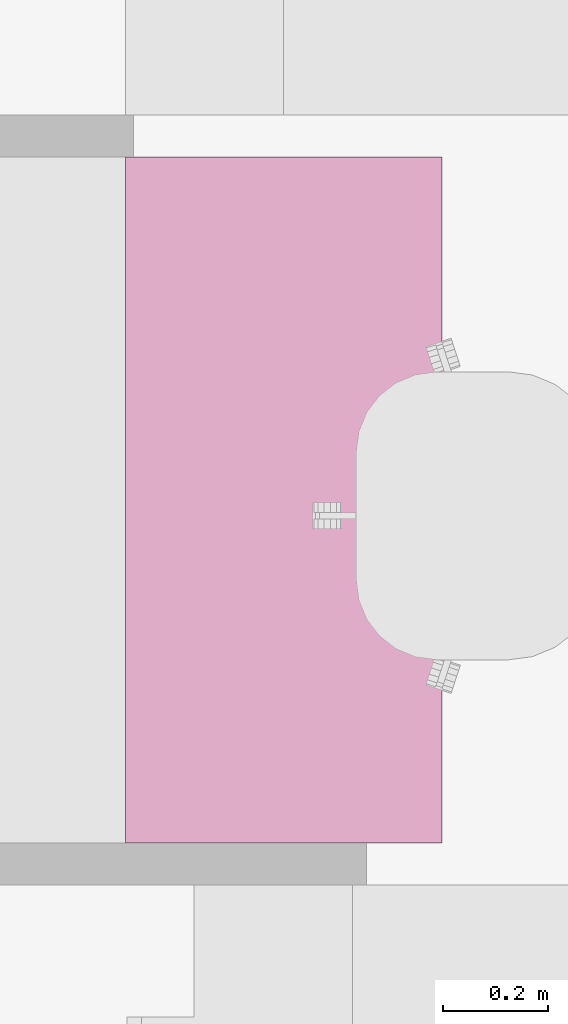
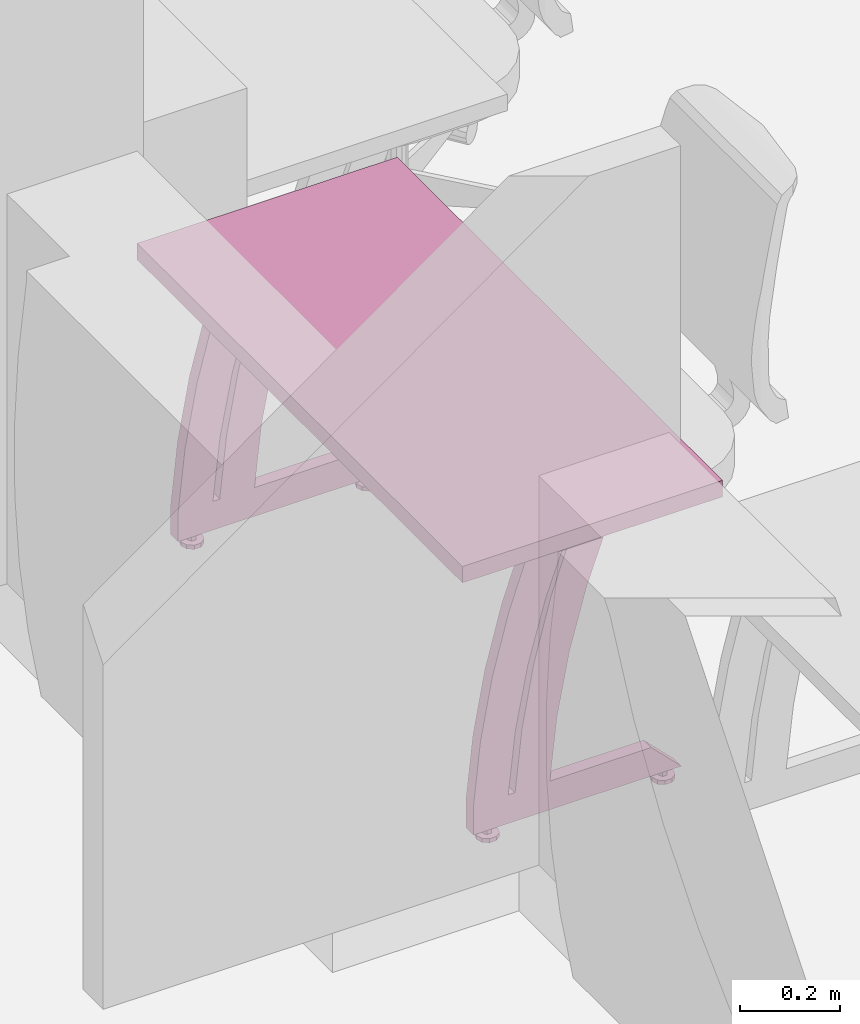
# One storey, part 94 of 128: 1 furnishing.
"""IFC2X3 building model written with IfcOpenShell, lengths in metres."""

from ifc_helpers import new_model, entity, si_unit, converted_unit, derived_unit, direction, frame, origin, place, context, subcontext, project, spatial, faceted_brep, source, transform, mapped, material, type_object, type_shapes, element, save


model = new_model("IFC2X3")

# Units and contexts
model_context = context("Model", 3, precision=1e-05, world=origin(), true_north=direction((6.123031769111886e-17, 1.0)))
body_context = subcontext(model_context, "Body", "Model", "MODEL_VIEW")
ifc_project = project(units=[si_unit("LENGTHUNIT", "METRE"), si_unit("AREAUNIT", "SQUARE_METRE"), converted_unit("PLANEANGLEUNIT", "DEGREE", entity("IfcPlaneAngleMeasure", 0.017453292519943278), si_unit("PLANEANGLEUNIT", "RADIAN"), dimensions=[0, 0, 0, 0, 0, 0, 0]), derived_unit("THERMALTRANSMITTANCEUNIT", [(si_unit("MASSUNIT", "GRAM", prefix="KILO"), 1), (si_unit("THERMODYNAMICTEMPERATUREUNIT", "KELVIN"), -1), (si_unit("TIMEUNIT", "SECOND"), -3)])], contexts=[model_context])

# Site, building, storey
site_placement = place(None, origin())
site = spatial("IfcSite", under=ifc_project, at=site_placement, Name="Default", CompositionType="ELEMENT")
building_placement = place(site_placement, origin())
building = spatial("IfcBuilding", under=site, at=building_placement, CompositionType="ELEMENT")
storey_placement = place(building_placement, origin())
storey = spatial("IfcBuildingStorey", under=building, at=storey_placement, Name="00_RDC CAF", CompositionType="ELEMENT", Elevation=2.4982504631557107e-13)

# Furnishing
ifc_material = material(Name="ARC - Mo - Blanc")
furniture_type = type_object("IfcFurnitureType", Name="Mo_Bureau:Mo_Bureau_1300x600mm", AssemblyPlace="NOTDEFINED", material=ifc_material)
shared_shape = source(origin(), body_context, "Body", "Brep", [
    faceted_brep([(0.05999999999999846, -0.4962325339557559, 0.0), (0.03622358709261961, -0.4885071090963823, 0.0), (0.040764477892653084, -0.48225710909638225, 0.0), (0.04530536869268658, -0.4760071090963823, 0.0), (0.05265268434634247, -0.4736198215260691, 0.0), (0.059999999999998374, -0.4712325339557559, 0.0), (0.06734731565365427, -0.4736198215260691, 0.0), (0.036223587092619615, -0.4962325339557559, 0.0), (0.03622358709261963, -0.5039579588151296, 0.0), (0.04076447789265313, -0.5102079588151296, 0.0), (0.04530536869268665, -0.5164579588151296, 0.0), (0.05265268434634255, -0.5188452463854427, 0.0), (0.05999999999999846, -0.5212325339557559, 0.0), (0.07469463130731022, -0.47600710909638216, 0.0), (0.07923552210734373, -0.48225710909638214, 0.0), (0.08377641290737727, -0.48850710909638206, 0.0), (0.08377641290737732, -0.4962325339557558, 0.0), (0.06734731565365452, -0.5188452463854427, 0.0), (0.07469463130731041, -0.5164579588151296, 0.0), (0.07923552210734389, -0.5102079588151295, 0.0), (0.08377641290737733, -0.5039579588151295, 0.0), (0.05999999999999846, -0.4962325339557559, 0.024999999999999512), (0.05999999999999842, -0.4862325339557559, 0.024999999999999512), (0.051339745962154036, -0.4912325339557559, 0.024999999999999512), (0.05133974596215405, -0.501232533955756, 0.024999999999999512), (0.05999999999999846, -0.506232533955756, 0.024999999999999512), (0.06866025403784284, -0.49123253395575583, 0.024999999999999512), (0.06866025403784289, -0.5012325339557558, 0.024999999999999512), (0.05133974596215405, -0.501232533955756, 0.01000000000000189), (0.05999999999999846, -0.506232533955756, 0.01000000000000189), (0.051339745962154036, -0.4912325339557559, 0.01000000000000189), (0.05999999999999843, -0.4862325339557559, 0.01000000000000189), (0.06866025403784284, -0.49123253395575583, 0.01000000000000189), (0.06866025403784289, -0.5012325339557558, 0.01000000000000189), (0.05999999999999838, -0.4712325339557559, 0.01000000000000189), (0.05554606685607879, -0.47267970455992, 0.01000000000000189), (0.05109213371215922, -0.474126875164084, 0.01000000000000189), (0.04530536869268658, -0.4760071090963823, 0.01000000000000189), (0.06734731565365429, -0.4736198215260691, 0.01000000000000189), (0.07469463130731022, -0.47600710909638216, 0.01000000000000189), (0.07923552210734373, -0.48225710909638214, 0.01000000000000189), (0.08377641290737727, -0.48850710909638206, 0.01000000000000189), (0.08377641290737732, -0.4962325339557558, 0.01000000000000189), (0.08377641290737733, -0.5039579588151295, 0.01000000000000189), (0.07923552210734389, -0.5102079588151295, 0.01000000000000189), (0.07469463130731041, -0.5164579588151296, 0.01000000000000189), (0.06890786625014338, -0.5183381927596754, 0.01000000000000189), (0.064453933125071, -0.5197853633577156, 0.01000000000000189), (0.05999999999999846, -0.5212325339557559, 0.01000000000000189), (0.05265268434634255, -0.5188452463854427, 0.01000000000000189), (0.04530536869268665, -0.5164579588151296, 0.01000000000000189), (0.03622358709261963, -0.5039579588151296, 0.01000000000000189), (0.04076447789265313, -0.5102079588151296, 0.01000000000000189), (0.040764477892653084, -0.48225710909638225, 0.01000000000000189), (0.03622358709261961, -0.4885071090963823, 0.01000000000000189), (0.036223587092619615, -0.4962325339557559, 0.01000000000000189)], [[[0, 1, 2]], [[0, 2, 3]], [[0, 3, 4]], [[0, 4, 5]], [[0, 5, 6]], [[0, 7, 1]], [[0, 8, 7]], [[0, 9, 8]], [[0, 10, 9]], [[0, 11, 10]], [[0, 12, 11]], [[0, 6, 13]], [[0, 13, 14]], [[0, 14, 15]], [[0, 15, 16]], [[0, 17, 12]], [[0, 18, 17]], [[0, 19, 18]], [[0, 20, 19]], [[0, 16, 20]], [[21, 22, 23]], [[23, 24, 21]], [[24, 25, 21]], [[21, 26, 22]], [[25, 27, 21]], [[26, 21, 27]], [[25, 24, 28, 29]], [[24, 23, 30, 28]], [[23, 22, 31, 30]], [[22, 26, 32, 31]], [[26, 27, 33, 32]], [[27, 25, 29, 33]], [[31, 34, 35]], [[31, 35, 36]], [[31, 36, 37]], [[31, 37, 30]], [[31, 38, 34]], [[31, 39, 38]], [[32, 39, 31]], [[32, 40, 39]], [[32, 41, 40]], [[32, 42, 41]], [[32, 43, 42]], [[32, 33, 43]], [[33, 44, 43]], [[33, 45, 44]], [[33, 29, 45]], [[29, 46, 45]], [[29, 47, 46]], [[29, 48, 47]], [[29, 49, 48]], [[29, 50, 49]], [[29, 28, 50]], [[30, 51, 28]], [[28, 51, 52]], [[28, 52, 50]], [[30, 37, 53]], [[30, 53, 54]], [[30, 54, 55]], [[30, 55, 51]], [[11, 12, 48, 49, 50, 10]], [[8, 9, 10, 50, 52, 51]], [[7, 8, 51, 55, 54, 1]], [[3, 37, 36, 35, 34, 5, 4]], [[54, 53, 37, 3, 2, 1]], [[6, 5, 34, 38, 39, 13]], [[15, 14, 13, 39, 40, 41]], [[16, 15, 41, 42, 43, 20]], [[18, 45, 46, 47, 48, 12, 17]], [[43, 44, 45, 18, 19, 20]]]),
    faceted_brep([(0.05999999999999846, -0.09132706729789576, 0.0), (0.03622358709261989, -0.0836016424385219, 0.0), (0.04076447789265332, -0.07735164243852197, 0.0), (0.04530536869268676, -0.07110164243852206, 0.0), (0.05265268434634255, -0.0687143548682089, 0.0), (0.059999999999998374, -0.06632706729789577, 0.0), (0.06734731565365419, -0.06871435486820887, 0.0), (0.0362235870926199, -0.0913270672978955, 0.0), (0.03622358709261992, -0.09905249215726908, 0.0), (0.04076447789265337, -0.105302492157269, 0.0), (0.045305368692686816, -0.11155249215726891, 0.0), (0.05265268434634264, -0.11393977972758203, 0.0), (0.05999999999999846, -0.11632706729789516, 0.0), (0.07469463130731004, -0.07110164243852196, 0.0), (0.0792355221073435, -0.07735164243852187, 0.0), (0.08377641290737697, -0.08360164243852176, 0.0), (0.08377641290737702, -0.09132706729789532, 0.0), (0.06734731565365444, -0.11393977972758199, 0.0), (0.07469463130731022, -0.11155249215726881, 0.0), (0.07923552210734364, -0.10530249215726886, 0.0), (0.08377641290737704, -0.09905249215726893, 0.0), (0.05999999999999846, -0.09132706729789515, 0.024999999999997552), (0.05999999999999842, -0.08132706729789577, 0.024999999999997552), (0.05133974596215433, -0.08632706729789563, 0.024999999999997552), (0.05133974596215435, -0.09632706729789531, 0.024999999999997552), (0.05999999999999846, -0.10132706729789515, 0.024999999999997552), (0.06866025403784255, -0.08632706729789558, 0.024999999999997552), (0.06866025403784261, -0.09632706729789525, 0.024999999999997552), (0.05133974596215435, -0.09632706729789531, 0.009999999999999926), (0.05999999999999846, -0.10132706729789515, 0.009999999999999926), (0.05133974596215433, -0.08632706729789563, 0.009999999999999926), (0.05999999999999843, -0.08132706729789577, 0.009999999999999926), (0.06866025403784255, -0.08632706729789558, 0.009999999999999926), (0.06866025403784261, -0.09632706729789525, 0.009999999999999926), (0.059999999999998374, -0.06632706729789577, 0.009999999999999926), (0.05554606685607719, -0.06777423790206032, 0.009999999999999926), (0.051092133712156, -0.06922140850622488, 0.009999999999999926), (0.04530536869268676, -0.07110164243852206, 0.009999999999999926), (0.0673473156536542, -0.06871435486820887, 0.009999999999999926), (0.07469463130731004, -0.07110164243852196, 0.009999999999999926), (0.0792355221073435, -0.07735164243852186, 0.009999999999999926), (0.08377641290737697, -0.08360164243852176, 0.009999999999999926), (0.08377641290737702, -0.09132706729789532, 0.009999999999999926), (0.08377641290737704, -0.09905249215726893, 0.009999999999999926), (0.07923552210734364, -0.10530249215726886, 0.009999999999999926), (0.07469463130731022, -0.11155249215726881, 0.009999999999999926), (0.0689078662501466, -0.11343272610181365, 0.009999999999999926), (0.06445393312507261, -0.11487989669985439, 0.009999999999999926), (0.05999999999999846, -0.11632706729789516, 0.009999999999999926), (0.05265268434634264, -0.11393977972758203, 0.009999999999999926), (0.045305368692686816, -0.11155249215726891, 0.009999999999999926), (0.03622358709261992, -0.09905249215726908, 0.009999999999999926), (0.04076447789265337, -0.105302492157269, 0.009999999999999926), (0.04076447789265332, -0.07735164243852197, 0.009999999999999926), (0.03622358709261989, -0.0836016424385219, 0.009999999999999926), (0.0362235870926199, -0.0913270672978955, 0.009999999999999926)], [[[0, 1, 2]], [[0, 2, 3]], [[0, 3, 4]], [[0, 4, 5]], [[0, 5, 6]], [[0, 7, 1]], [[0, 8, 7]], [[0, 9, 8]], [[0, 10, 9]], [[0, 11, 10]], [[0, 12, 11]], [[0, 6, 13]], [[0, 13, 14]], [[0, 14, 15]], [[0, 15, 16]], [[0, 17, 12]], [[0, 18, 17]], [[0, 19, 18]], [[0, 20, 19]], [[0, 16, 20]], [[21, 22, 23]], [[23, 24, 21]], [[24, 25, 21]], [[21, 26, 22]], [[25, 27, 21]], [[26, 21, 27]], [[25, 24, 28, 29]], [[24, 23, 30, 28]], [[23, 22, 31, 30]], [[22, 26, 32, 31]], [[26, 27, 33, 32]], [[27, 25, 29, 33]], [[31, 34, 35]], [[31, 35, 36]], [[31, 36, 37]], [[31, 37, 30]], [[31, 38, 34]], [[31, 39, 38]], [[32, 39, 31]], [[32, 40, 39]], [[32, 41, 40]], [[32, 42, 41]], [[32, 43, 42]], [[32, 33, 43]], [[33, 44, 43]], [[33, 45, 44]], [[33, 29, 45]], [[29, 46, 45]], [[29, 47, 46]], [[29, 48, 47]], [[29, 49, 48]], [[29, 50, 49]], [[29, 28, 50]], [[30, 51, 28]], [[28, 51, 52]], [[28, 52, 50]], [[30, 37, 53]], [[30, 53, 54]], [[30, 54, 55]], [[30, 55, 51]], [[11, 12, 48, 49, 50, 10]], [[8, 9, 10, 50, 52, 51]], [[7, 8, 51, 55, 54, 1]], [[3, 37, 36, 35, 34, 5, 4]], [[54, 53, 37, 3, 2, 1]], [[6, 5, 34, 38, 39, 13]], [[15, 14, 13, 39, 40, 41]], [[16, 15, 41, 42, 43, 20]], [[18, 45, 46, 47, 48, 12, 17]], [[43, 44, 45, 18, 19, 20]]]),
    faceted_brep([(0.04499999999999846, -0.22742160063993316, 0.09499999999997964), (0.04499999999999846, -0.24409269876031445, 0.2461411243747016), (0.04499999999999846, -0.2727144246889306, 0.39548087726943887), (0.04499999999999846, -0.3131059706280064, 0.5420758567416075), (0.04499999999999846, -0.36501217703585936, 0.6849999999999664), (0.04499999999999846, -0.27887211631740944, 0.6849999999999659), (0.04499999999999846, -0.22919246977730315, 0.5416912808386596), (0.04499999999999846, -0.19055436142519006, 0.3950196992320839), (0.04499999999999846, -0.16318154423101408, 0.24583462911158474), (0.04499999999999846, -0.14723253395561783, 0.09499999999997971), (0.07499999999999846, -0.3650121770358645, 0.6849999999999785), (0.07499999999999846, -0.3131059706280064, 0.5420758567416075), (0.07499999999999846, -0.2727144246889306, 0.39548087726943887), (0.07499999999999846, -0.24409269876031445, 0.2461411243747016), (0.07499999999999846, -0.2274216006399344, 0.09499999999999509), (0.07499999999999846, -0.14723253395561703, 0.09499999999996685), (0.07499999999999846, -0.16318154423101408, 0.24583462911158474), (0.07499999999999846, -0.19055436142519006, 0.3950196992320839), (0.07499999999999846, -0.22919246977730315, 0.5416912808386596), (0.07499999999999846, -0.2788721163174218, 0.6849999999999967)], [[[0, 1, 2, 3, 4, 5, 6, 7, 8, 9]], [[10, 11, 12, 13, 14, 15, 16, 17, 18, 19]], [[10, 19, 5, 4]], [[3, 11, 10, 4]], [[2, 12, 11, 3]], [[0, 14, 13, 1]], [[12, 2, 1, 13]], [[15, 14, 0, 9]], [[8, 7, 17, 16]], [[15, 9, 8, 16]], [[6, 5, 19, 18]], [[6, 18, 17, 7]]]),
    faceted_brep([(0.04499999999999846, -0.13142160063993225, 0.0949999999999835), (0.04499999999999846, -0.14809269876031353, 0.24614112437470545), (0.04499999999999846, -0.1767144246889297, 0.39548087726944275), (0.04499999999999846, -0.21710597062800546, 0.5420758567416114), (0.04499999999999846, -0.26901217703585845, 0.6849999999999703), (0.04499999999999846, -0.1828721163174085, 0.6849999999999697), (0.04499999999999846, -0.13319246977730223, 0.5416912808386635), (0.04499999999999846, -0.09455436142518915, 0.39501969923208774), (0.04499999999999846, -0.06718154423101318, 0.2458346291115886), (0.04499999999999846, -0.05123253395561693, 0.09499999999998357), (0.07499999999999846, -0.2690121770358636, 0.6849999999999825), (0.07499999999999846, -0.21710597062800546, 0.5420758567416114), (0.07499999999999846, -0.1767144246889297, 0.39548087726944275), (0.07499999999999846, -0.14809269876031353, 0.24614112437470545), (0.07499999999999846, -0.1314216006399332, 0.09499999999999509), (0.07499999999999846, -0.05123253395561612, 0.0949999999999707), (0.07499999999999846, -0.06718154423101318, 0.2458346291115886), (0.07499999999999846, -0.09455436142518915, 0.39501969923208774), (0.07499999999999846, -0.13319246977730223, 0.5416912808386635), (0.07499999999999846, -0.18287211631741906, 0.684999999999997)], [[[0, 1, 2, 3, 4, 5, 6, 7, 8, 9]], [[10, 11, 12, 13, 14, 15, 16, 17, 18, 19]], [[10, 19, 5, 4]], [[3, 11, 10, 4]], [[2, 12, 11, 3]], [[0, 14, 13, 1]], [[12, 2, 1, 13]], [[15, 14, 0, 9]], [[8, 7, 17, 16]], [[15, 9, 8, 16]], [[6, 5, 19, 18]], [[6, 18, 17, 7]]]),
    faceted_brep([(0.04499999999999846, -0.05123253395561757, 0.0249999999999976), (0.04499999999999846, -0.5312325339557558, 0.0249999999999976), (0.04499999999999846, -0.46123253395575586, 0.09499999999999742), (0.04499999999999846, -0.05123253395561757, 0.09499999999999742), (0.07499999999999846, -0.05123253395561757, 0.0249999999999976), (0.07499999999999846, -0.05123253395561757, 0.09499999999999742), (0.07499999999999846, -0.46123253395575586, 0.09499999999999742), (0.07499999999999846, -0.5312325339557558, 0.0249999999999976)], [[[0, 1, 2, 3]], [[4, 5, 6, 7]], [[5, 4, 0, 3]], [[6, 5, 3, 2]], [[4, 7, 1, 0]], [[7, 6, 2, 1]]]),
    faceted_brep([(1.2399999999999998, -0.49623253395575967, 0.0), (1.2162235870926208, -0.48850710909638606, 0.0), (1.2207644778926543, -0.4822571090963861, 0.0), (1.2253053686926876, -0.47600710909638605, 0.0), (1.2326526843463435, -0.47361982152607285, 0.0), (1.2399999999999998, -0.4712325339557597, 0.0), (1.2473473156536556, -0.47361982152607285, 0.0), (1.2162235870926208, -0.49623253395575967, 0.0), (1.2162235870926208, -0.5039579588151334, 0.0), (1.2207644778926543, -0.5102079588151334, 0.0), (1.225305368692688, -0.5164579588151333, 0.0), (1.232652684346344, -0.5188452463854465, 0.0), (1.2399999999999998, -0.5212325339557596, 0.0), (1.2546946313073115, -0.47600710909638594, 0.0), (1.259235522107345, -0.4822571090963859, 0.0), (1.2637764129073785, -0.48850710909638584, 0.0), (1.2637764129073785, -0.49623253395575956, 0.0), (1.2473473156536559, -0.5188452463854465, 0.0), (1.2546946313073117, -0.5164579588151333, 0.0), (1.259235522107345, -0.5102079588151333, 0.0), (1.2637764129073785, -0.5039579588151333, 0.0), (1.2399999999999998, -0.49623253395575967, 0.024999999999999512), (1.2399999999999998, -0.48623253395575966, 0.024999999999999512), (1.2313397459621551, -0.49123253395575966, 0.024999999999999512), (1.2313397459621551, -0.5012325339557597, 0.024999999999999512), (1.2399999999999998, -0.5062325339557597, 0.024999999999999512), (1.2486602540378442, -0.4912325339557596, 0.024999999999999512), (1.2486602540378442, -0.5012325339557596, 0.024999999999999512), (1.2313397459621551, -0.5012325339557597, 0.01000000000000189), (1.2399999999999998, -0.5062325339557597, 0.01000000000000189), (1.2313397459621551, -0.49123253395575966, 0.01000000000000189), (1.2399999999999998, -0.48623253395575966, 0.01000000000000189), (1.2486602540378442, -0.4912325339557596, 0.01000000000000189), (1.2486602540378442, -0.5012325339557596, 0.01000000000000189), (1.2399999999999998, -0.4712325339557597, 0.01000000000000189), (1.2355460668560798, -0.47267970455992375, 0.01000000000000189), (1.2310921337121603, -0.4741268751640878, 0.01000000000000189), (1.2253053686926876, -0.47600710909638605, 0.01000000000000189), (1.2473473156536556, -0.47361982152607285, 0.01000000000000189), (1.2546946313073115, -0.47600710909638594, 0.01000000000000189), (1.259235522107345, -0.4822571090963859, 0.01000000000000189), (1.2637764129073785, -0.48850710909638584, 0.01000000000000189), (1.2637764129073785, -0.49623253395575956, 0.01000000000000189), (1.2637764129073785, -0.5039579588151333, 0.01000000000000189), (1.259235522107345, -0.5102079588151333, 0.01000000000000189), (1.2546946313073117, -0.5164579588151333, 0.01000000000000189), (1.2489078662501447, -0.5183381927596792, 0.01000000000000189), (1.2444539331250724, -0.5197853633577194, 0.01000000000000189), (1.2399999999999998, -0.5212325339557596, 0.01000000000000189), (1.232652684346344, -0.5188452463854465, 0.01000000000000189), (1.225305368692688, -0.5164579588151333, 0.01000000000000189), (1.2162235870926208, -0.5039579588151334, 0.01000000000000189), (1.2207644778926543, -0.5102079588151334, 0.01000000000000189), (1.2207644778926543, -0.4822571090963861, 0.01000000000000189), (1.2162235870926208, -0.48850710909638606, 0.01000000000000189), (1.2162235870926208, -0.49623253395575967, 0.01000000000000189)], [[[0, 1, 2]], [[0, 2, 3]], [[0, 3, 4]], [[0, 4, 5]], [[0, 5, 6]], [[0, 7, 1]], [[0, 8, 7]], [[0, 9, 8]], [[0, 10, 9]], [[0, 11, 10]], [[0, 12, 11]], [[0, 6, 13]], [[0, 13, 14]], [[0, 14, 15]], [[0, 15, 16]], [[0, 17, 12]], [[0, 18, 17]], [[0, 19, 18]], [[0, 20, 19]], [[0, 16, 20]], [[21, 22, 23]], [[23, 24, 21]], [[24, 25, 21]], [[21, 26, 22]], [[25, 27, 21]], [[26, 21, 27]], [[25, 24, 28, 29]], [[24, 23, 30, 28]], [[23, 22, 31, 30]], [[22, 26, 32, 31]], [[26, 27, 33, 32]], [[27, 25, 29, 33]], [[31, 34, 35]], [[31, 35, 36]], [[31, 36, 37]], [[31, 37, 30]], [[31, 38, 34]], [[31, 39, 38]], [[32, 39, 31]], [[32, 40, 39]], [[32, 41, 40]], [[32, 42, 41]], [[32, 43, 42]], [[32, 33, 43]], [[33, 44, 43]], [[33, 45, 44]], [[33, 29, 45]], [[29, 46, 45]], [[29, 47, 46]], [[29, 48, 47]], [[29, 49, 48]], [[29, 50, 49]], [[29, 28, 50]], [[30, 51, 28]], [[28, 51, 52]], [[28, 52, 50]], [[30, 37, 53]], [[30, 53, 54]], [[30, 54, 55]], [[30, 55, 51]], [[11, 12, 48, 49, 50, 10]], [[8, 9, 10, 50, 52, 51]], [[7, 8, 51, 55, 54, 1]], [[3, 37, 36, 35, 34, 5, 4]], [[54, 53, 37, 3, 2, 1]], [[6, 5, 34, 38, 39, 13]], [[15, 14, 13, 39, 40, 41]], [[16, 15, 41, 42, 43, 20]], [[18, 45, 46, 47, 48, 12, 17]], [[43, 44, 45, 18, 19, 20]]]),
    faceted_brep([(1.2399999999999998, -0.09132706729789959, 0.0), (1.2162235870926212, -0.08360164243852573, 0.0), (1.2207644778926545, -0.0773516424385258, 0.0), (1.225305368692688, -0.07110164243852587, 0.0), (1.2326526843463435, -0.06871435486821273, 0.0), (1.2399999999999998, -0.06632706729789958, 0.0), (1.2473473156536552, -0.06871435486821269, 0.0), (1.2162235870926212, -0.09132706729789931, 0.0), (1.2162235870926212, -0.09905249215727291, 0.0), (1.2207644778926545, -0.10530249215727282, 0.0), (1.225305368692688, -0.11155249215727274, 0.0), (1.232652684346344, -0.11393977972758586, 0.0), (1.2399999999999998, -0.11632706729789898, 0.0), (1.254694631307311, -0.07110164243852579, 0.0), (1.2592355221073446, -0.0773516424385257, 0.0), (1.263776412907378, -0.0836016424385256, 0.0), (1.263776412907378, -0.09132706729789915, 0.0), (1.2473473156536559, -0.1139397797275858, 0.0), (1.2546946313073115, -0.11155249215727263, 0.0), (1.2592355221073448, -0.10530249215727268, 0.0), (1.263776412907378, -0.09905249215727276, 0.0), (1.2399999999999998, -0.09132706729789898, 0.024999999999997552), (1.2399999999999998, -0.0813270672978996, 0.024999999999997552), (1.2313397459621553, -0.08632706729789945, 0.024999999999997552), (1.2313397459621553, -0.09632706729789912, 0.024999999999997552), (1.2399999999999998, -0.10132706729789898, 0.024999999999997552), (1.2486602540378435, -0.0863270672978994, 0.024999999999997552), (1.248660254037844, -0.09632706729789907, 0.024999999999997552), (1.2313397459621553, -0.09632706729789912, 0.009999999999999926), (1.2399999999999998, -0.10132706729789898, 0.009999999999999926), (1.2313397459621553, -0.08632706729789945, 0.009999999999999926), (1.2399999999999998, -0.0813270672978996, 0.009999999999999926), (1.2486602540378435, -0.0863270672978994, 0.009999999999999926), (1.248660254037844, -0.09632706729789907, 0.009999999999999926), (1.2399999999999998, -0.06632706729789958, 0.009999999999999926), (1.2355460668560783, -0.06777423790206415, 0.009999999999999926), (1.2310921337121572, -0.0692214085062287, 0.009999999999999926), (1.225305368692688, -0.07110164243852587, 0.009999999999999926), (1.2473473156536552, -0.06871435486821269, 0.009999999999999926), (1.254694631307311, -0.07110164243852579, 0.009999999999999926), (1.2592355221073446, -0.07735164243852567, 0.009999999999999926), (1.263776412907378, -0.0836016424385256, 0.009999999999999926), (1.263776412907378, -0.09132706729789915, 0.009999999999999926), (1.263776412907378, -0.09905249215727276, 0.009999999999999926), (1.2592355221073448, -0.10530249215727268, 0.009999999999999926), (1.2546946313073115, -0.11155249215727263, 0.009999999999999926), (1.2489078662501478, -0.1134327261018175, 0.009999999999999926), (1.2444539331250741, -0.11487989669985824, 0.009999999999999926), (1.2399999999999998, -0.11632706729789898, 0.009999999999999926), (1.232652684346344, -0.11393977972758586, 0.009999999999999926), (1.225305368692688, -0.11155249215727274, 0.009999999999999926), (1.2162235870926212, -0.09905249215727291, 0.009999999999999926), (1.2207644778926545, -0.10530249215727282, 0.009999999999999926), (1.2207644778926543, -0.0773516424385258, 0.009999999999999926), (1.2162235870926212, -0.08360164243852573, 0.009999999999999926), (1.2162235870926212, -0.09132706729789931, 0.009999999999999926)], [[[0, 1, 2]], [[0, 2, 3]], [[0, 3, 4]], [[0, 4, 5]], [[0, 5, 6]], [[0, 7, 1]], [[0, 8, 7]], [[0, 9, 8]], [[0, 10, 9]], [[0, 11, 10]], [[0, 12, 11]], [[0, 6, 13]], [[0, 13, 14]], [[0, 14, 15]], [[0, 15, 16]], [[0, 17, 12]], [[0, 18, 17]], [[0, 19, 18]], [[0, 20, 19]], [[0, 16, 20]], [[21, 22, 23]], [[23, 24, 21]], [[24, 25, 21]], [[21, 26, 22]], [[25, 27, 21]], [[26, 21, 27]], [[25, 24, 28, 29]], [[24, 23, 30, 28]], [[23, 22, 31, 30]], [[22, 26, 32, 31]], [[26, 27, 33, 32]], [[27, 25, 29, 33]], [[31, 34, 35]], [[31, 35, 36]], [[31, 36, 37]], [[31, 37, 30]], [[31, 38, 34]], [[31, 39, 38]], [[32, 39, 31]], [[32, 40, 39]], [[32, 41, 40]], [[32, 42, 41]], [[32, 43, 42]], [[32, 33, 43]], [[33, 44, 43]], [[33, 45, 44]], [[33, 29, 45]], [[29, 46, 45]], [[29, 47, 46]], [[29, 48, 47]], [[29, 49, 48]], [[29, 50, 49]], [[29, 28, 50]], [[30, 51, 28]], [[28, 51, 52]], [[28, 52, 50]], [[30, 37, 53]], [[30, 53, 54]], [[30, 54, 55]], [[30, 55, 51]], [[11, 12, 48, 49, 50, 10]], [[8, 9, 10, 50, 52, 51]], [[7, 8, 51, 55, 54, 1]], [[3, 37, 36, 35, 34, 5, 4]], [[54, 53, 37, 3, 2, 1]], [[6, 5, 34, 38, 39, 13]], [[15, 14, 13, 39, 40, 41]], [[16, 15, 41, 42, 43, 20]], [[18, 45, 46, 47, 48, 12, 17]], [[43, 44, 45, 18, 19, 20]]]),
    faceted_brep([(1.2249999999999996, -0.22742160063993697, 0.09499999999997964), (1.2249999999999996, -0.24409269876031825, 0.2461411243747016), (1.2249999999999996, -0.2727144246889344, 0.39548087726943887), (1.2249999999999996, -0.31310597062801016, 0.5420758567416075), (1.2249999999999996, -0.36501217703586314, 0.6849999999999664), (1.2249999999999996, -0.2788721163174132, 0.6849999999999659), (1.2249999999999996, -0.22919246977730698, 0.5416912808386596), (1.2249999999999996, -0.19055436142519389, 0.3950196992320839), (1.2249999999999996, -0.1631815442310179, 0.24583462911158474), (1.2249999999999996, -0.14723253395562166, 0.09499999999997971), (1.2549999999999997, -0.3650121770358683, 0.6849999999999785), (1.2549999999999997, -0.31310597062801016, 0.5420758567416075), (1.2549999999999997, -0.2727144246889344, 0.39548087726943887), (1.2549999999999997, -0.24409269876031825, 0.2461411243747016), (1.2549999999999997, -0.22742160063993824, 0.09499999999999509), (1.2549999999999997, -0.14723253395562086, 0.09499999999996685), (1.2549999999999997, -0.1631815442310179, 0.24583462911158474), (1.2549999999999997, -0.19055436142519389, 0.3950196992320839), (1.2549999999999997, -0.22919246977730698, 0.5416912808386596), (1.2549999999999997, -0.2788721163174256, 0.6849999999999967)], [[[0, 1, 2, 3, 4, 5, 6, 7, 8, 9]], [[10, 11, 12, 13, 14, 15, 16, 17, 18, 19]], [[10, 19, 5, 4]], [[3, 11, 10, 4]], [[2, 12, 11, 3]], [[0, 14, 13, 1]], [[12, 2, 1, 13]], [[15, 14, 0, 9]], [[8, 7, 17, 16]], [[15, 9, 8, 16]], [[6, 5, 19, 18]], [[6, 18, 17, 7]]]),
    faceted_brep([(1.2249999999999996, -0.13142160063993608, 0.0949999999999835), (1.2249999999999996, -0.14809269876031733, 0.24614112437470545), (1.2249999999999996, -0.1767144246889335, 0.39548087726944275), (1.2249999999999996, -0.2171059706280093, 0.5420758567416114), (1.2249999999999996, -0.2690121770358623, 0.6849999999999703), (1.2249999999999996, -0.18287211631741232, 0.6849999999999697), (1.2249999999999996, -0.13319246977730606, 0.5416912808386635), (1.2249999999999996, -0.09455436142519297, 0.39501969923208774), (1.2249999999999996, -0.06718154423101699, 0.2458346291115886), (1.2249999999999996, -0.05123253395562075, 0.09499999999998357), (1.2549999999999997, -0.2690121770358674, 0.6849999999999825), (1.2549999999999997, -0.2171059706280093, 0.5420758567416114), (1.2549999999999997, -0.1767144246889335, 0.39548087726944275), (1.2549999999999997, -0.14809269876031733, 0.24614112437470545), (1.2549999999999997, -0.13142160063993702, 0.09499999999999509), (1.2549999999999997, -0.05123253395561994, 0.0949999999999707), (1.2549999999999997, -0.06718154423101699, 0.2458346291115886), (1.2549999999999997, -0.09455436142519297, 0.39501969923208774), (1.2549999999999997, -0.13319246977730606, 0.5416912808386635), (1.2549999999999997, -0.18287211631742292, 0.684999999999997)], [[[0, 1, 2, 3, 4, 5, 6, 7, 8, 9]], [[10, 11, 12, 13, 14, 15, 16, 17, 18, 19]], [[10, 19, 5, 4]], [[3, 11, 10, 4]], [[2, 12, 11, 3]], [[0, 14, 13, 1]], [[12, 2, 1, 13]], [[15, 14, 0, 9]], [[8, 7, 17, 16]], [[15, 9, 8, 16]], [[6, 5, 19, 18]], [[6, 18, 17, 7]]]),
    faceted_brep([(1.2249999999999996, -0.05123253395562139, 0.0249999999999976), (1.2249999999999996, -0.5312325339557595, 0.0249999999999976), (1.2249999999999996, -0.46123253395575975, 0.09499999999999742), (1.2249999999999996, -0.05123253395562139, 0.09499999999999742), (1.2549999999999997, -0.05123253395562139, 0.0249999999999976), (1.2549999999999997, -0.05123253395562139, 0.09499999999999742), (1.2549999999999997, -0.46123253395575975, 0.09499999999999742), (1.2549999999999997, -0.5312325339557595, 0.0249999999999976)], [[[0, 1, 2, 3]], [[4, 5, 6, 7]], [[5, 4, 0, 3]], [[6, 5, 3, 2]], [[4, 7, 1, 0]], [[7, 6, 2, 1]]]),
    faceted_brep([(0.0, -0.5999999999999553, 0.685), (0.0, 0.0, 0.685), (1.2999999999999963, 0.0, 0.6849999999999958), (1.2999999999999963, -0.5999999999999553, 0.6849999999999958), (0.0, -0.5999999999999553, 0.7250000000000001), (1.2999999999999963, -0.5999999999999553, 0.7249999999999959), (1.2999999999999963, 0.0, 0.7249999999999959), (0.0, 0.0, 0.7250000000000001)], [[[0, 1, 2, 3]], [[4, 5, 6, 7]], [[5, 4, 0, 3]], [[6, 5, 3, 2]], [[7, 6, 2, 1]], [[4, 7, 1, 0]]]),
])
type_shapes(furniture_type, [shared_shape])
furnishing_placement = place(storey_placement, frame((19.99552115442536, 139.63182648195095, 0.15999999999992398), z_axis=(0.0, 0.0, 1.0), x_axis=(0.0, 1.0, 0.0)))
element("IfcFurnishingElement", 1, at=furnishing_placement, inside=storey, type_object=furniture_type, material=ifc_material, Name="Mo_Bureau:Mo_Bureau_1300x600mm", ObjectType="Mo_Bureau:Mo_Bureau_1300x600mm", context=body_context, shape_type="MappedRepresentation", body=[
    mapped(shared_shape, transform((0.0, 0.0, 0.0), scale=1.0)),
])

save(model, "model.ifc")
